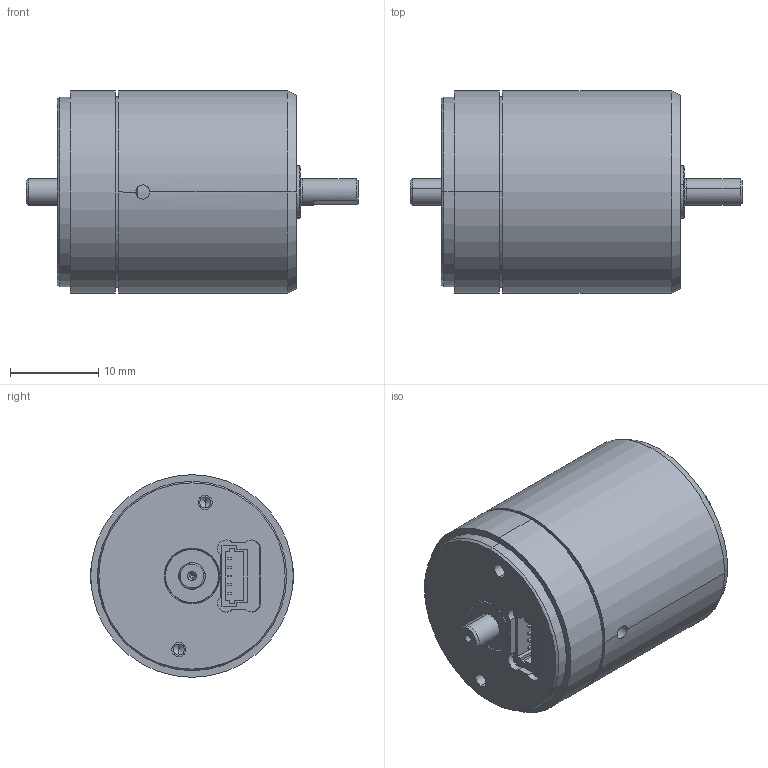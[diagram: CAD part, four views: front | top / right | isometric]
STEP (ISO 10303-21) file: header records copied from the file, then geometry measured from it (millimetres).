
FILE_DESCRIPTION (( 'STEP AP214' ), '1' );
FILE_NAME ('LR23-050C2AE0A00-PiezoMotor.STEP', '2019-09-30T21:18:03', ( '' ), ( '' ), 'SwSTEP 2.0', 'SolidWorks 2017', '' );
FILE_SCHEMA (( 'AUTOMOTIVE_DESIGN' ));
Length unit declared in the file: millimetre
Products named in the file (3): LR23-050C2AE0A00-MotorShaft-PiezoMotor; LR23-050C2AE0A00-Motor-PiezoMotor; LR23-050C2AE0A00-PiezoMotor
Assembly tree (2 placements, depth 2):
  LR23-050C2AE0A00-PiezoMotor
    LR23-050C2AE0A00-MotorShaft-PiezoMotor
    LR23-050C2AE0A00-Motor-PiezoMotor
Bounding box: 37.7 x 23 x 23 mm (x, y, z)
Volume: 7413.8 mm3; surface area: 7503.7 mm2
Topology: 4 solids, 4 shells, 330 faces, 772 edges, 473 vertices
Faces by surface type: plane 126, cylinder 105, cone 71, torus 28
Entity records: 10169 total; most frequent: DIRECTION 1728, CARTESIAN_POINT 1720, ORIENTED_EDGE 1512, EDGE_CURVE 756, AXIS2_PLACEMENT_3D 655, VERTEX_POINT 473, VECTOR 418, LINE 418
